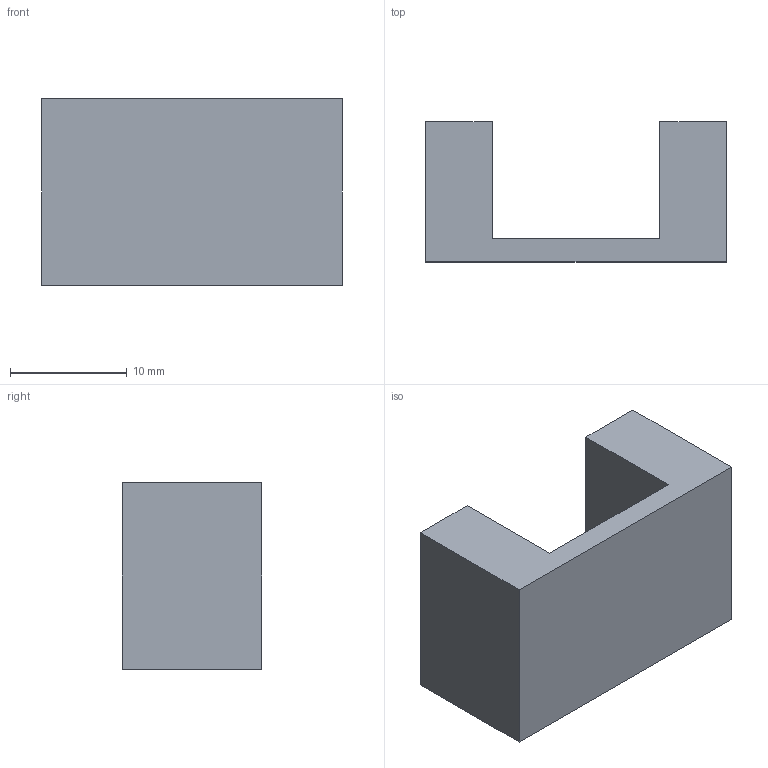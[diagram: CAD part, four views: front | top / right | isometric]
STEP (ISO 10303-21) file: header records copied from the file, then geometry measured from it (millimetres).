
FILE_DESCRIPTION(('Open CASCADE Model'),'2;1');
FILE_NAME('Open CASCADE Shape Model','2026-09-12T16:48:07',('Author'),( 'Open CASCADE'),'Open CASCADE STEP processor 7.9','Open CASCADE 7.9' ,'Unknown');
FILE_SCHEMA(('AUTOMOTIVE_DESIGN { 1 0 10303 214 1 1 1 1 }'));
Length unit declared in the file: millimetre
Products named in the file (1): Open CASCADE STEP translator 7.9 24
Bounding box: 25.8 x 12 x 16 mm (x, y, z)
Volume: 2649.6 mm3; surface area: 1860.8 mm2
Topology: 1 solids, 1 shells, 10 faces, 24 edges, 16 vertices
Faces by surface type: plane 10
Entity records: 610 total; most frequent: CARTESIAN_POINT 99, DIRECTION 94, LINE 72, VECTOR 72, ORIENTED_EDGE 48, PCURVE 48, DEFINITIONAL_REPRESENTATION 48, EDGE_CURVE 24
